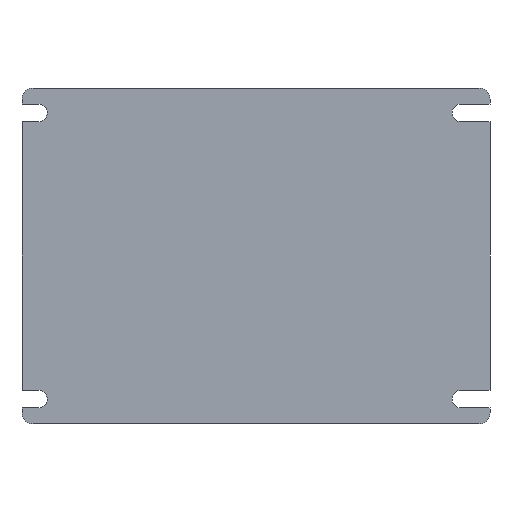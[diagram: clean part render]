
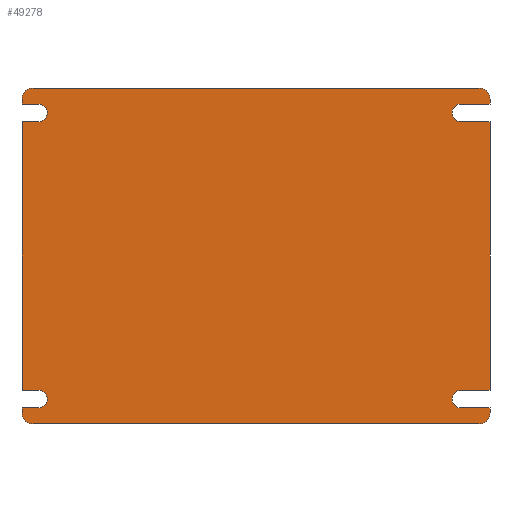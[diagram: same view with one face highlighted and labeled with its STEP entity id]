
A CAD part, front view. The second image highlights one B-rep face of the part: STEP entity #49278.
In plain terms, the highlighted planar face has unit normal (0, -1, 0).
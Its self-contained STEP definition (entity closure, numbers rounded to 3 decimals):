
#48535=CARTESIAN_POINT('',(-40.5,0.,28.5));
#48536=DIRECTION('',(0.,-1.,0.));
#48537=DIRECTION('',(0.,0.,1.));
#48538=AXIS2_PLACEMENT_3D('',#48535,#48536,#48537);
#48540=DIRECTION('',(1.,0.,0.));
#48541=VECTOR('',#48540,81.);
#48542=CARTESIAN_POINT('',(-40.5,0.,30.5));
#48543=LINE('',#48542,#48541);
#48544=CARTESIAN_POINT('',(40.5,0.,28.5));
#48545=DIRECTION('',(0.,-1.,0.));
#48546=DIRECTION('',(1.,0.,0.));
#48547=AXIS2_PLACEMENT_3D('',#48544,#48545,#48546);
#48549=DIRECTION('',(0.,0.,-1.));
#48550=VECTOR('',#48549,0.9);
#48551=CARTESIAN_POINT('',(42.5,0.,28.5));
#48552=LINE('',#48551,#48550);
#48553=DIRECTION('',(-1.,0.,0.));
#48554=VECTOR('',#48553,3.);
#48555=CARTESIAN_POINT('',(42.5,0.,27.6));
#48556=LINE('',#48555,#48554);
#48557=CARTESIAN_POINT('',(39.5,0.,26.));
#48558=DIRECTION('',(0.,1.,0.));
#48559=DIRECTION('',(0.,0.,-1.));
#48560=AXIS2_PLACEMENT_3D('',#48557,#48558,#48559);
#48562=DIRECTION('',(-1.,0.,0.));
#48563=VECTOR('',#48562,3.);
#48564=CARTESIAN_POINT('',(42.5,0.,24.4));
#48565=LINE('',#48564,#48563);
#48566=DIRECTION('',(0.,0.,-1.));
#48567=VECTOR('',#48566,48.8);
#48568=CARTESIAN_POINT('',(42.5,0.,24.4));
#48569=LINE('',#48568,#48567);
#48570=DIRECTION('',(-1.,0.,0.));
#48571=VECTOR('',#48570,3.);
#48572=CARTESIAN_POINT('',(42.5,0.,-24.4));
#48573=LINE('',#48572,#48571);
#48574=CARTESIAN_POINT('',(39.5,0.,-26.));
#48575=DIRECTION('',(0.,1.,0.));
#48576=DIRECTION('',(0.,0.,-1.));
#48577=AXIS2_PLACEMENT_3D('',#48574,#48575,#48576);
#48579=DIRECTION('',(-1.,0.,0.));
#48580=VECTOR('',#48579,3.);
#48581=CARTESIAN_POINT('',(42.5,0.,-27.6));
#48582=LINE('',#48581,#48580);
#48583=DIRECTION('',(0.,0.,-1.));
#48584=VECTOR('',#48583,0.9);
#48585=CARTESIAN_POINT('',(42.5,0.,-27.6));
#48586=LINE('',#48585,#48584);
#48587=CARTESIAN_POINT('',(40.5,0.,-28.5));
#48588=DIRECTION('',(0.,-1.,0.));
#48589=DIRECTION('',(0.,0.,-1.));
#48590=AXIS2_PLACEMENT_3D('',#48587,#48588,#48589);
#48592=DIRECTION('',(-1.,0.,0.));
#48593=VECTOR('',#48592,81.);
#48594=CARTESIAN_POINT('',(40.5,0.,-30.5));
#48595=LINE('',#48594,#48593);
#48596=CARTESIAN_POINT('',(-40.5,0.,-28.5));
#48597=DIRECTION('',(0.,-1.,0.));
#48598=DIRECTION('',(-1.,0.,0.));
#48599=AXIS2_PLACEMENT_3D('',#48596,#48597,#48598);
#48601=DIRECTION('',(0.,0.,1.));
#48602=VECTOR('',#48601,0.9);
#48603=CARTESIAN_POINT('',(-42.5,0.,-28.5));
#48604=LINE('',#48603,#48602);
#48605=DIRECTION('',(1.,0.,0.));
#48606=VECTOR('',#48605,5.3);
#48607=CARTESIAN_POINT('',(-42.5,0.,-27.6));
#48608=LINE('',#48607,#48606);
#48609=CARTESIAN_POINT('',(-37.2,0.,-26.));
#48610=DIRECTION('',(0.,1.,0.));
#48611=DIRECTION('',(0.,0.,1.));
#48612=AXIS2_PLACEMENT_3D('',#48609,#48610,#48611);
#48614=DIRECTION('',(1.,0.,0.));
#48615=VECTOR('',#48614,5.3);
#48616=CARTESIAN_POINT('',(-42.5,0.,-24.4));
#48617=LINE('',#48616,#48615);
#48618=DIRECTION('',(0.,0.,1.));
#48619=VECTOR('',#48618,48.8);
#48620=CARTESIAN_POINT('',(-42.5,0.,-24.4));
#48621=LINE('',#48620,#48619);
#48622=DIRECTION('',(1.,0.,0.));
#48623=VECTOR('',#48622,5.3);
#48624=CARTESIAN_POINT('',(-42.5,0.,24.4));
#48625=LINE('',#48624,#48623);
#48626=CARTESIAN_POINT('',(-37.2,0.,26.));
#48627=DIRECTION('',(0.,1.,0.));
#48628=DIRECTION('',(0.,0.,1.));
#48629=AXIS2_PLACEMENT_3D('',#48626,#48627,#48628);
#48631=DIRECTION('',(1.,0.,0.));
#48632=VECTOR('',#48631,5.3);
#48633=CARTESIAN_POINT('',(-42.5,0.,27.6));
#48634=LINE('',#48633,#48632);
#48635=DIRECTION('',(0.,0.,1.));
#48636=VECTOR('',#48635,0.9);
#48637=CARTESIAN_POINT('',(-42.5,0.,27.6));
#48638=LINE('',#48637,#48636);
#49063=CARTESIAN_POINT('',(39.5,0.,-27.6));
#49064=CARTESIAN_POINT('',(39.5,0.,-24.4));
#49065=VERTEX_POINT('',#49063);
#49066=VERTEX_POINT('',#49064);
#49067=CARTESIAN_POINT('',(42.5,0.,-24.4));
#49068=VERTEX_POINT('',#49067);
#49069=CARTESIAN_POINT('',(42.5,0.,-27.6));
#49070=VERTEX_POINT('',#49069);
#49071=CARTESIAN_POINT('',(42.5,0.,27.6));
#49072=CARTESIAN_POINT('',(39.5,0.,27.6));
#49073=VERTEX_POINT('',#49071);
#49074=VERTEX_POINT('',#49072);
#49075=CARTESIAN_POINT('',(42.5,0.,24.4));
#49076=CARTESIAN_POINT('',(39.5,0.,24.4));
#49077=VERTEX_POINT('',#49075);
#49078=VERTEX_POINT('',#49076);
#49095=CARTESIAN_POINT('',(-40.5,0.,30.5));
#49096=CARTESIAN_POINT('',(-42.5,0.,28.5));
#49097=VERTEX_POINT('',#49095);
#49098=VERTEX_POINT('',#49096);
#49103=CARTESIAN_POINT('',(-42.5,0.,-28.5));
#49104=CARTESIAN_POINT('',(-40.5,0.,-30.5));
#49105=VERTEX_POINT('',#49103);
#49106=VERTEX_POINT('',#49104);
#49111=CARTESIAN_POINT('',(40.5,0.,-30.5));
#49112=CARTESIAN_POINT('',(42.5,0.,-28.5));
#49113=VERTEX_POINT('',#49111);
#49114=VERTEX_POINT('',#49112);
#49119=CARTESIAN_POINT('',(42.5,0.,28.5));
#49120=CARTESIAN_POINT('',(40.5,0.,30.5));
#49121=VERTEX_POINT('',#49119);
#49122=VERTEX_POINT('',#49120);
#49127=CARTESIAN_POINT('',(-42.5,0.,-24.4));
#49128=CARTESIAN_POINT('',(-42.5,0.,24.4));
#49129=VERTEX_POINT('',#49127);
#49130=VERTEX_POINT('',#49128);
#49135=CARTESIAN_POINT('',(-42.5,0.,-27.6));
#49136=VERTEX_POINT('',#49135);
#49137=CARTESIAN_POINT('',(-42.5,0.,27.6));
#49138=VERTEX_POINT('',#49137);
#49207=CARTESIAN_POINT('',(-37.2,0.,27.6));
#49208=CARTESIAN_POINT('',(-37.2,0.,24.4));
#49209=VERTEX_POINT('',#49207);
#49210=VERTEX_POINT('',#49208);
#49211=CARTESIAN_POINT('',(-37.2,0.,-24.4));
#49212=CARTESIAN_POINT('',(-37.2,0.,-27.6));
#49213=VERTEX_POINT('',#49211);
#49214=VERTEX_POINT('',#49212);
#49223=CARTESIAN_POINT('',(0.,0.,0.));
#49224=DIRECTION('',(0.,1.,0.));
#49225=DIRECTION('',(1.,0.,0.));
#49226=AXIS2_PLACEMENT_3D('',#49223,#49224,#49225);
#49227=PLANE('',#49226);
#49229=ORIENTED_EDGE('',*,*,#49228,.F.);
#49231=ORIENTED_EDGE('',*,*,#49230,.T.);
#49233=ORIENTED_EDGE('',*,*,#49232,.F.);
#49235=ORIENTED_EDGE('',*,*,#49234,.T.);
#49237=ORIENTED_EDGE('',*,*,#49236,.T.);
#49239=ORIENTED_EDGE('',*,*,#49238,.F.);
#49241=ORIENTED_EDGE('',*,*,#49240,.F.);
#49243=ORIENTED_EDGE('',*,*,#49242,.T.);
#49245=ORIENTED_EDGE('',*,*,#49244,.T.);
#49247=ORIENTED_EDGE('',*,*,#49246,.F.);
#49249=ORIENTED_EDGE('',*,*,#49248,.F.);
#49251=ORIENTED_EDGE('',*,*,#49250,.T.);
#49253=ORIENTED_EDGE('',*,*,#49252,.F.);
#49255=ORIENTED_EDGE('',*,*,#49254,.T.);
#49257=ORIENTED_EDGE('',*,*,#49256,.F.);
#49259=ORIENTED_EDGE('',*,*,#49258,.T.);
#49261=ORIENTED_EDGE('',*,*,#49260,.T.);
#49263=ORIENTED_EDGE('',*,*,#49262,.F.);
#49265=ORIENTED_EDGE('',*,*,#49264,.F.);
#49267=ORIENTED_EDGE('',*,*,#49266,.T.);
#49269=ORIENTED_EDGE('',*,*,#49268,.T.);
#49271=ORIENTED_EDGE('',*,*,#49270,.F.);
#49273=ORIENTED_EDGE('',*,*,#49272,.F.);
#49275=ORIENTED_EDGE('',*,*,#49274,.T.);
#49276=EDGE_LOOP('',(#49229,#49231,#49233,#49235,#49237,#49239,#49241,#49243,
#49245,#49247,#49249,#49251,#49253,#49255,#49257,#49259,#49261,#49263,#49265,
#49267,#49269,#49271,#49273,#49275));
#49277=FACE_OUTER_BOUND('',#49276,.F.);
#49278=ADVANCED_FACE('',(#49277),#49227,.F.);
#48539=CIRCLE('',#48538,2.);
#48548=CIRCLE('',#48547,2.);
#48561=CIRCLE('',#48560,1.6);
#48578=CIRCLE('',#48577,1.6);
#48591=CIRCLE('',#48590,2.);
#48600=CIRCLE('',#48599,2.);
#48613=CIRCLE('',#48612,1.6);
#48630=CIRCLE('',#48629,1.6);
#49228=EDGE_CURVE('',#49097,#49098,#48539,.T.);
#49230=EDGE_CURVE('',#49097,#49122,#48543,.T.);
#49232=EDGE_CURVE('',#49121,#49122,#48548,.T.);
#49234=EDGE_CURVE('',#49121,#49073,#48552,.T.);
#49236=EDGE_CURVE('',#49073,#49074,#48556,.T.);
#49238=EDGE_CURVE('',#49078,#49074,#48561,.T.);
#49240=EDGE_CURVE('',#49077,#49078,#48565,.T.);
#49242=EDGE_CURVE('',#49077,#49068,#48569,.T.);
#49244=EDGE_CURVE('',#49068,#49066,#48573,.T.);
#49246=EDGE_CURVE('',#49065,#49066,#48578,.T.);
#49248=EDGE_CURVE('',#49070,#49065,#48582,.T.);
#49250=EDGE_CURVE('',#49070,#49114,#48586,.T.);
#49252=EDGE_CURVE('',#49113,#49114,#48591,.T.);
#49254=EDGE_CURVE('',#49113,#49106,#48595,.T.);
#49256=EDGE_CURVE('',#49105,#49106,#48600,.T.);
#49258=EDGE_CURVE('',#49105,#49136,#48604,.T.);
#49260=EDGE_CURVE('',#49136,#49214,#48608,.T.);
#49262=EDGE_CURVE('',#49213,#49214,#48613,.T.);
#49264=EDGE_CURVE('',#49129,#49213,#48617,.T.);
#49266=EDGE_CURVE('',#49129,#49130,#48621,.T.);
#49268=EDGE_CURVE('',#49130,#49210,#48625,.T.);
#49270=EDGE_CURVE('',#49209,#49210,#48630,.T.);
#49272=EDGE_CURVE('',#49138,#49209,#48634,.T.);
#49274=EDGE_CURVE('',#49138,#49098,#48638,.T.);
